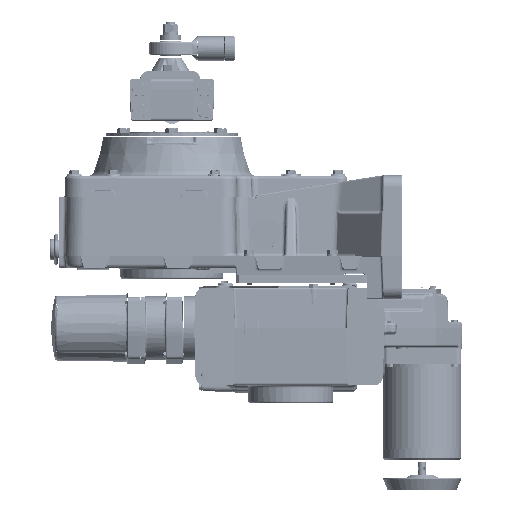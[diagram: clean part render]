
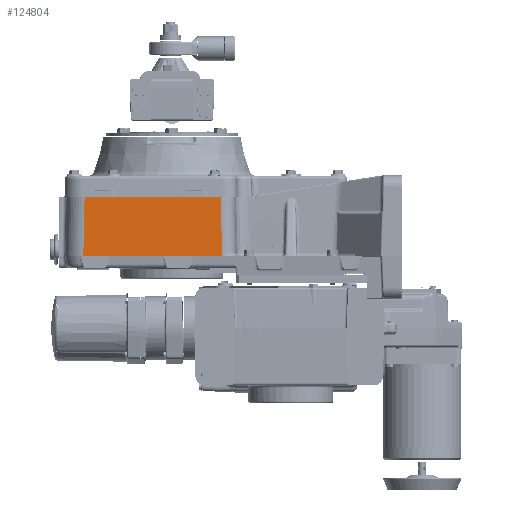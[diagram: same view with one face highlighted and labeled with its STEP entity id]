
A CAD part, left-side view. The second image highlights one B-rep face of the part: STEP entity #124804.
In plain terms, the highlighted planar face has unit normal (-1, 0, 0.022).
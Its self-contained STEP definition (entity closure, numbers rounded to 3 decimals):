
#591 = LINE ( 'NONE', #596, #111051 ) ;
#596 = CARTESIAN_POINT ( 'NONE',  ( -10.125, 0., 1. ) ) ;
#599 = DIRECTION ( 'NONE',  ( 0., 1., 0. ) ) ;
#5727 = LINE ( 'NONE', #5766, #110422 ) ;
#5736 = LINE ( 'NONE', #5741, #110442 ) ;
#5741 = CARTESIAN_POINT ( 'NONE',  ( -10.018, 0., 5.896 ) ) ;
#5743 = DIRECTION ( 'NONE',  ( 0., -1., 0. ) ) ;
#5766 = CARTESIAN_POINT ( 'NONE',  ( -10.123, -4.148, 1.09 ) ) ;
#5772 = DIRECTION ( 'NONE',  ( 0.022, 0.022, 1. ) ) ;
#7154 = CARTESIAN_POINT ( 'NONE',  ( -10.122, 7.341, 1.16 ) ) ;
#7182 = LINE ( 'NONE', #7154, #186260 ) ;
#7193 = DIRECTION ( 'NONE',  ( -0.022, 0.022, -1. ) ) ;
#7390 = LINE ( 'NONE', #7398, #186295 ) ;
#7398 = CARTESIAN_POINT ( 'NONE',  ( -10.125, 5.531, 1. ) ) ;
#7403 = DIRECTION ( 'NONE',  ( 0., 1., 0. ) ) ;
#33252 = AXIS2_PLACEMENT_3D ( 'NONE', #49998, #50038, #50040 ) ;
#49998 = CARTESIAN_POINT ( 'NONE',  ( -10.125, 0., 1. ) ) ;
#50000 = FACE_OUTER_BOUND ( 'NONE', #57681, .T. ) ;
#50032 = PLANE ( 'NONE',  #33252 ) ;
#50038 = DIRECTION ( 'NONE',  ( -1., 0., 0.022 ) ) ;
#50040 = DIRECTION ( 'NONE',  ( 0.022, 0., 1. ) ) ;
#54036 = VERTEX_POINT ( 'NONE', #96091 ) ;
#54888 = VERTEX_POINT ( 'NONE', #96347 ) ;
#55354 = VERTEX_POINT ( 'NONE', #96537 ) ;
#55651 = VERTEX_POINT ( 'NONE', #96653 ) ;
#55775 = VERTEX_POINT ( 'NONE', #67401 ) ;
#57681 = EDGE_LOOP ( 'NONE', ( #155180, #154882, #155118, #155111, #152660, #154868, #170395 ) ) ;
#67401 = CARTESIAN_POINT ( 'NONE',  ( -10.125, -4.15, 1. ) ) ;
#92289 = CARTESIAN_POINT ( 'NONE',  ( -10.125, 7.344, 1. ) ) ;
#96091 = CARTESIAN_POINT ( 'NONE',  ( -10.125, 5.126, 1. ) ) ;
#96347 = CARTESIAN_POINT ( 'NONE',  ( -10.018, 7.238, 5.896 ) ) ;
#96537 = CARTESIAN_POINT ( 'NONE',  ( -10.125, 0.78, 1. ) ) ;
#96653 = CARTESIAN_POINT ( 'NONE',  ( -10.018, -4.043, 5.896 ) ) ;
#100775 = VERTEX_POINT ( 'NONE', #191783 ) ;
#110422 = VECTOR ( 'NONE', #5772, 39.37 ) ;
#110442 = VECTOR ( 'NONE', #5743, 39.37 ) ;
#111051 = VECTOR ( 'NONE', #599, 39.37 ) ;
#112639 = VERTEX_POINT ( 'NONE', #92289 ) ;
#123695 = LINE ( 'NONE', #123703, #175328 ) ;
#123703 = CARTESIAN_POINT ( 'NONE',  ( -10.125, 0., 1. ) ) ;
#123714 = DIRECTION ( 'NONE',  ( 0., 1., 0. ) ) ;
#123806 = LINE ( 'NONE', #123807, #174240 ) ;
#123807 = CARTESIAN_POINT ( 'NONE',  ( -10.125, 0., 1. ) ) ;
#123808 = DIRECTION ( 'NONE',  ( 0., 1., 0. ) ) ;
#124804 = ADVANCED_FACE ( 'NONE', ( #50000 ), #50032, .T. ) ;
#127151 = EDGE_CURVE ( 'NONE', #100775, #55354, #591, .T. ) ;
#127867 = EDGE_CURVE ( 'NONE', #54888, #55651, #5736, .T. ) ;
#127874 = EDGE_CURVE ( 'NONE', #55775, #55651, #5727, .T. ) ;
#127995 = EDGE_CURVE ( 'NONE', #54888, #112639, #7182, .T. ) ;
#128016 = EDGE_CURVE ( 'NONE', #54036, #112639, #7390, .T. ) ;
#134960 = EDGE_CURVE ( 'NONE', #55775, #100775, #123695, .T. ) ;
#135001 = EDGE_CURVE ( 'NONE', #55354, #54036, #123806, .T. ) ;
#152660 = ORIENTED_EDGE ( 'NONE', *, *, #127151, .F. ) ;
#154868 = ORIENTED_EDGE ( 'NONE', *, *, #134960, .F. ) ;
#154882 = ORIENTED_EDGE ( 'NONE', *, *, #127995, .T. ) ;
#155111 = ORIENTED_EDGE ( 'NONE', *, *, #135001, .F. ) ;
#155118 = ORIENTED_EDGE ( 'NONE', *, *, #128016, .F. ) ;
#155180 = ORIENTED_EDGE ( 'NONE', *, *, #127867, .F. ) ;
#170395 = ORIENTED_EDGE ( 'NONE', *, *, #127874, .T. ) ;
#174240 = VECTOR ( 'NONE', #123808, 39.37 ) ;
#175328 = VECTOR ( 'NONE', #123714, 39.37 ) ;
#186260 = VECTOR ( 'NONE', #7193, 39.37 ) ;
#186295 = VECTOR ( 'NONE', #7403, 39.37 ) ;
#191783 = CARTESIAN_POINT ( 'NONE',  ( -10.125, -1.78, 1. ) ) ;
